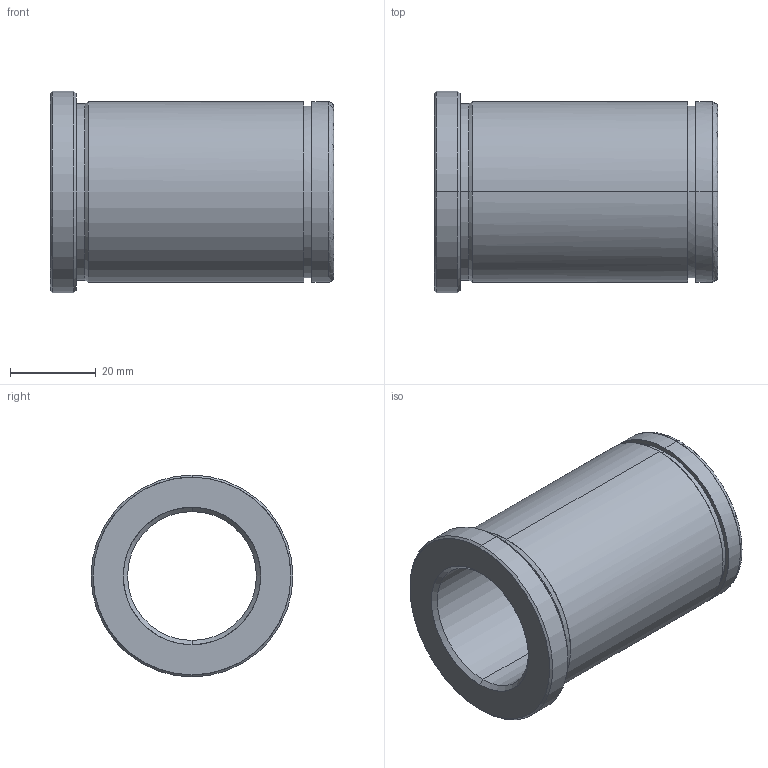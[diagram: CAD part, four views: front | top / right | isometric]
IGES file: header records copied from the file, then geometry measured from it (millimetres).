
Start section: START RECORD GO HERE.
Global section: file name: 553-30X66.igs; native system: DASSAULT SYSTEMES CATIA V5 R20 - www.3ds.com; preprocessor: CATIA Version 5 Release 20 ; author: Utente; organization: NB04-ASUS; date: 20210526.202352; units: millimetre
Bounding box: 66 x 47 x 47 mm (x, y, z)
Surface area: 17092.3 mm2 (no closed solid volume)
Topology: 0 solids, 0 shells, 29 faces, 184 edges, 184 vertices
Faces by surface type: revolution 24, plane 5
